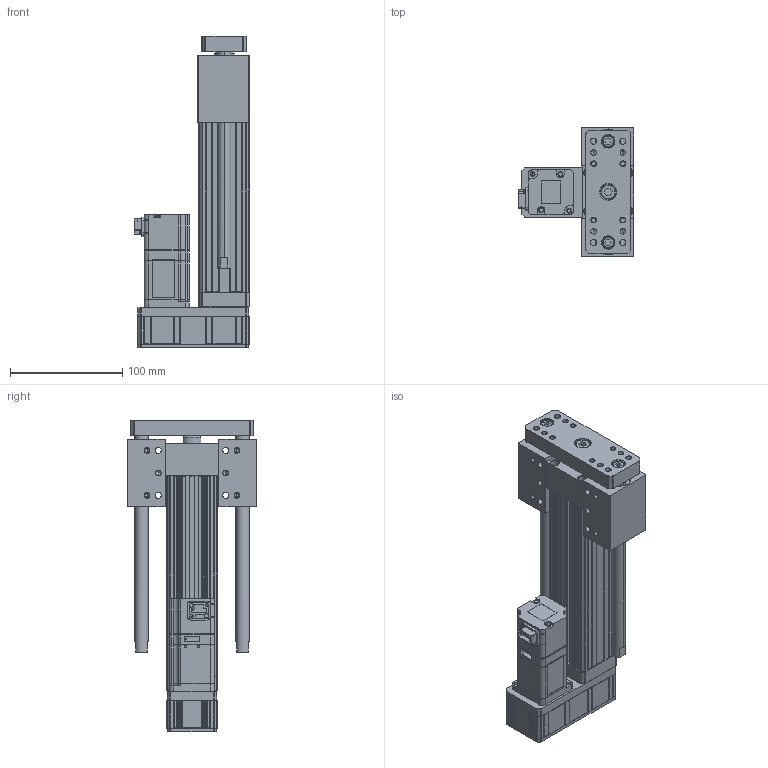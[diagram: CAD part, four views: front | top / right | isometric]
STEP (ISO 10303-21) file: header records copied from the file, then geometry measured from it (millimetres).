
FILE_DESCRIPTION (( 'STEP AP203' ), '1' );
FILE_NAME ('ANS045-HP100-05(10)-W10.STEP', '2019-02-14T03:03:14', ( 'user' ), ( '' ), 'SwSTEP 2.0', 'SolidWorks 2013', '' );
FILE_SCHEMA (( 'CONFIG_CONTROL_DESIGN' ));
Length unit declared in the file: millimetre
Products named in the file (4): ANS045 HP100 VER2; ANS045 ROD ST100 H; SGMJV_01A_A21; ANS045-HP100-05(10)-W10
Assembly tree (3 placements, depth 2):
  ANS045-HP100-05(10)-W10
    ANS045 HP100 VER2
    ANS045 ROD ST100 H
    SGMJV_01A_A21
Bounding box: 102.3 x 115 x 277.5 mm (x, y, z)
Volume: 754174.7 mm3; surface area: 211147 mm2
Topology: 3 solids, 11 shells, 1245 faces, 3210 edges, 2044 vertices
Faces by surface type: plane 670, cylinder 431, cone 142, bspline 2
Entity records: 38032 total; most frequent: CARTESIAN_POINT 7187, ORIENTED_EDGE 6380, DIRECTION 6326, EDGE_CURVE 3190, LINE 2140, VECTOR 2140, AXIS2_PLACEMENT_3D 2093, VERTEX_POINT 2044
